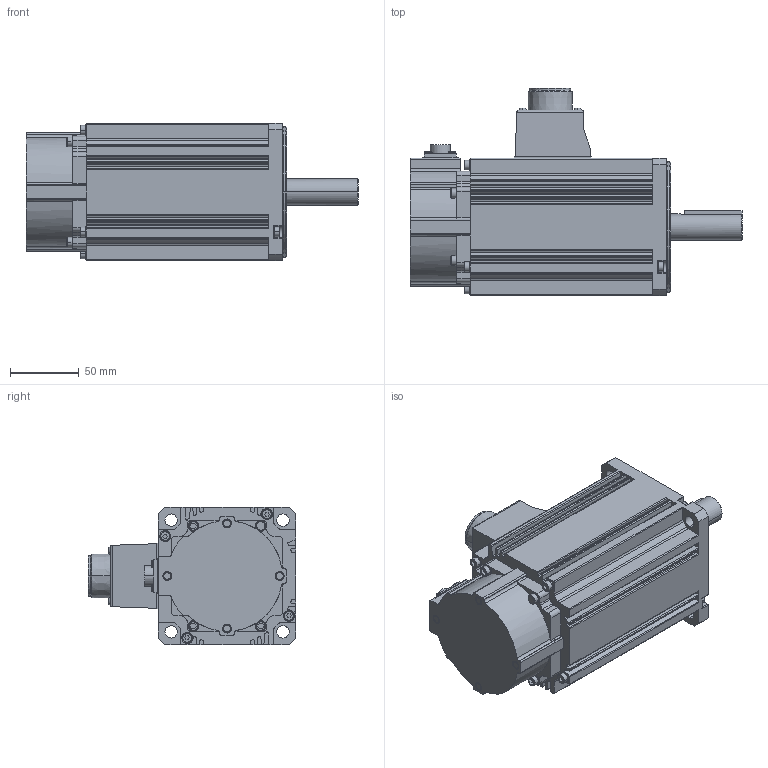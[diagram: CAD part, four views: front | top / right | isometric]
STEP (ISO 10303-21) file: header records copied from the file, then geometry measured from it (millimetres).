
FILE_DESCRIPTION( ( '' ), '1' );
FILE_NAME( '//expscmdclustefs.cadenas.external/client_exchange/iodir/jobs/output/wkb64589728_no0/STEP/MSME152G1H_1__2_03.stp', '2013-10-23T14:04:09', ( '' ), ( '' ), ' ', ' ', ' ' );
FILE_SCHEMA( ( 'CONFIG_CONTROL_DESIGN' ) );
Length unit declared in the file: millimetre
Products named in the file (1): 1
Bounding box: 241.5 x 151 x 100 mm (x, y, z)
Volume: 1632955.2 mm3; surface area: 121777.3 mm2
Topology: 1 solids, 1 shells, 636 faces, 1690 edges, 1110 vertices
Faces by surface type: plane 285, cylinder 267, cone 44, torus 32, sphere 8
Entity records: 20308 total; most frequent: CARTESIAN_POINT 3803, DIRECTION 3630, ORIENTED_EDGE 3380, EDGE_CURVE 1690, AXIS2_PLACEMENT_3D 1339, VERTEX_POINT 1110, LINE 952, VECTOR 952
